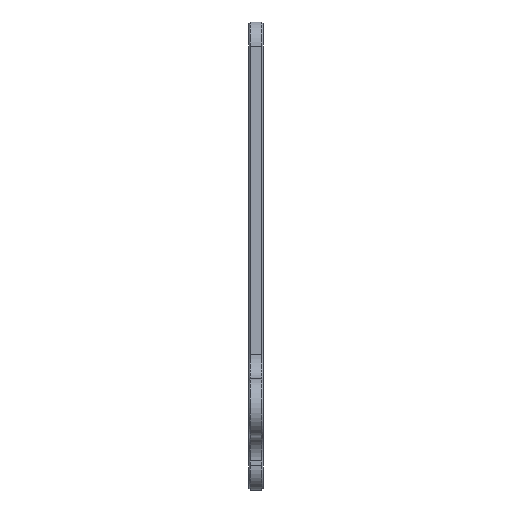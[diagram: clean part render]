
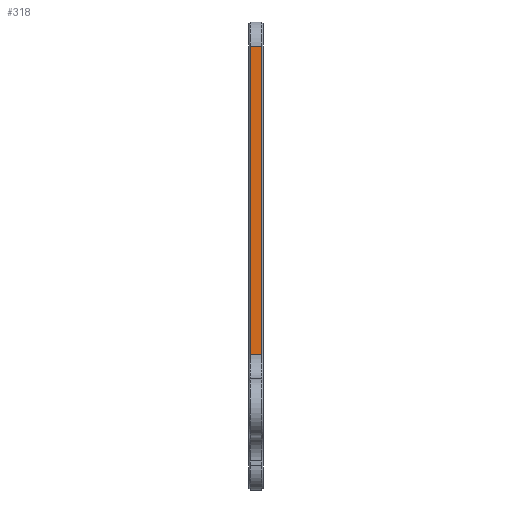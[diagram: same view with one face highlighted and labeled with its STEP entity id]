
A CAD part, left-side view. The second image highlights one B-rep face of the part: STEP entity #318.
In plain terms, the highlighted planar face has unit normal (-1, 0, 0).
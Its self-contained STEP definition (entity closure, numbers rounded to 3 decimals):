
#6 = CARTESIAN_POINT ( 'NONE',  ( -21.2, 2.7, 23.5 ) ) ;
#20 = CARTESIAN_POINT ( 'NONE',  ( -21.2, 0.3, 0. ) ) ;
#219 = ORIENTED_EDGE ( 'NONE', *, *, #3596, .T. ) ;
#306 = CARTESIAN_POINT ( 'NONE',  ( -21.2, 0.3, -40.2 ) ) ;
#318 = ADVANCED_FACE ( 'NONE', ( #1291 ), #2604, .F. ) ;
#386 = DIRECTION ( 'NONE',  ( 0., 0., -1. ) ) ;
#402 = EDGE_CURVE ( 'NONE', #2085, #1106, #1060, .T. ) ;
#654 = EDGE_CURVE ( 'NONE', #1106, #1178, #4330, .T. ) ;
#755 = DIRECTION ( 'NONE',  ( 1., 0., 0. ) ) ;
#827 = CARTESIAN_POINT ( 'NONE',  ( -21.2, 0.3, 23.5 ) ) ;
#894 = VECTOR ( 'NONE', #4028, 1000. ) ;
#1060 = LINE ( 'NONE', #20, #1288 ) ;
#1069 = CARTESIAN_POINT ( 'NONE',  ( -21.2, 3., 23.5 ) ) ;
#1106 = VERTEX_POINT ( 'NONE', #827 ) ;
#1143 = EDGE_CURVE ( 'NONE', #1178, #3774, #1503, .T. ) ;
#1154 = ORIENTED_EDGE ( 'NONE', *, *, #402, .T. ) ;
#1178 = VERTEX_POINT ( 'NONE', #6 ) ;
#1220 = ORIENTED_EDGE ( 'NONE', *, *, #654, .T. ) ;
#1288 = VECTOR ( 'NONE', #1762, 1000. ) ;
#1291 = FACE_OUTER_BOUND ( 'NONE', #3031, .T. ) ;
#1496 = VECTOR ( 'NONE', #2720, 1000. ) ;
#1503 = LINE ( 'NONE', #2828, #894 ) ;
#1762 = DIRECTION ( 'NONE',  ( 0., 0., 1. ) ) ;
#1969 = DIRECTION ( 'NONE',  ( 0., -1., 0. ) ) ;
#2026 = CARTESIAN_POINT ( 'NONE',  ( -21.2, 0., -40.2 ) ) ;
#2085 = VERTEX_POINT ( 'NONE', #306 ) ;
#2519 = CARTESIAN_POINT ( 'NONE',  ( -21.2, 2.7, -40.2 ) ) ;
#2604 = PLANE ( 'NONE',  #2658 ) ;
#2658 = AXIS2_PLACEMENT_3D ( 'NONE', #3447, #755, #386 ) ;
#2720 = DIRECTION ( 'NONE',  ( 0., 1., 0. ) ) ;
#2828 = CARTESIAN_POINT ( 'NONE',  ( -21.2, 2.7, -40.2 ) ) ;
#3031 = EDGE_LOOP ( 'NONE', ( #219, #1154, #1220, #3514 ) ) ;
#3337 = VECTOR ( 'NONE', #1969, 1000. ) ;
#3447 = CARTESIAN_POINT ( 'NONE',  ( -21.2, 3., 0. ) ) ;
#3514 = ORIENTED_EDGE ( 'NONE', *, *, #1143, .T. ) ;
#3596 = EDGE_CURVE ( 'NONE', #3774, #2085, #3979, .T. ) ;
#3774 = VERTEX_POINT ( 'NONE', #2519 ) ;
#3979 = LINE ( 'NONE', #2026, #3337 ) ;
#4028 = DIRECTION ( 'NONE',  ( 0., 0., -1. ) ) ;
#4330 = LINE ( 'NONE', #1069, #1496 ) ;
